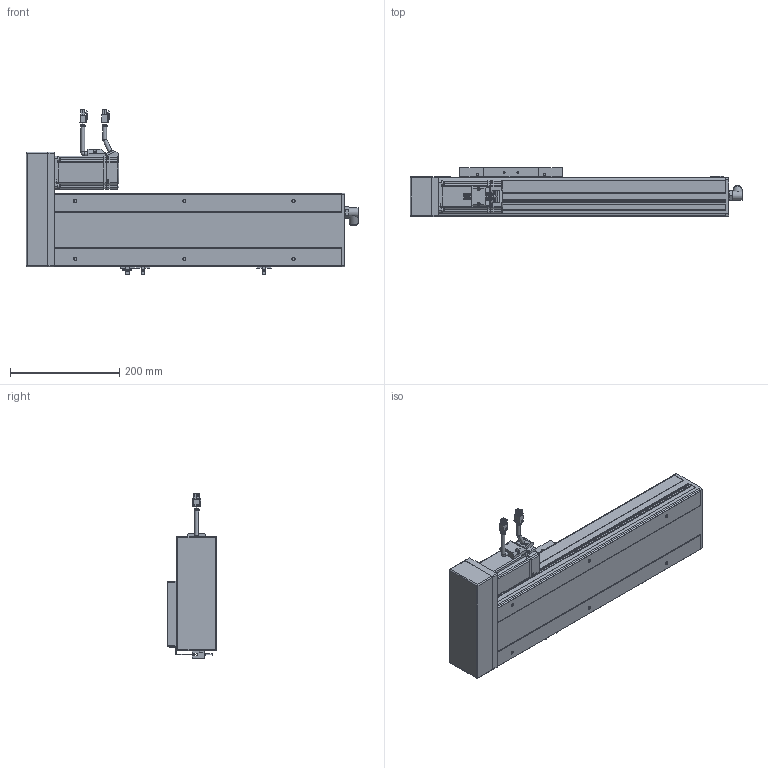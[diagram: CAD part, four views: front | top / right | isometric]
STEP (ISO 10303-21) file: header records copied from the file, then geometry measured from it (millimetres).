
FILE_DESCRIPTION(/* description */ ('STEP AP214'),/* implementation_level */ '2;1');
FILE_NAME(/* name */ 'PSC140-L05-S250-BL-P40-C1-N(0)',/* time_stamp */ '2022-06-13T03:26:19+02:00',/* author */ ('License CC BY-ND 4.0'),/* organization */ ('CADENAS'),/* preprocessor_version */ 'ST-DEVELOPER v18.102',/* originating_system */ 'PARTsolutions',/* authorisation */ ' ');
FILE_SCHEMA (('AUTOMOTIVE_DESIGN {1 0 10303 214 3 1 1}'));
Length unit declared in the file: millimetre
Products named in the file (11): PSC140-L05-S250-BL-P40-C1-N(0); P40-s2; P40-c2; P40-s1; P40-c1; P40-p1; PSC140-BL-body2; PSC140-sensor; PSC140-BL-SLIDER; PSC140-S250-BL-P40-C1_BODY1; PSC140-L05-S250-BL-P40-C1-N(0)_dummy
Assembly tree (12 placements, depth 2):
  PSC140-L05-S250-BL-P40-C1-N(0)
    P40-s2
    P40-c2
    P40-s1
    P40-c1
    P40-p1
    PSC140-BL-body2
    PSC140-sensor  x3
    PSC140-BL-SLIDER
    PSC140-S250-BL-P40-C1_BODY1
    PSC140-L05-S250-BL-P40-C1-N(0)_dummy
Bounding box: 608 x 91 x 300.88 mm (x, y, z)
Volume: 6613269.3 mm3; surface area: 447055.8 mm2
Topology: 11 solids, 11 shells, 1213 faces, 3149 edges, 2085 vertices
Faces by surface type: plane 852, cylinder 308, cone 34, torus 19
Full cylindrical faces by diameter (mm): 1 x8, 2.6 x10, 2.8 x3, 3.3 x8, 4.5 x12, 4.6 x3, 4.917 x10, 5 x4, 5.5 x8, 6 x10, 7 x10, 9 x2, 10 x1, 11 x1, 12 x1, 13.74 x1, 14 x1, 16.4 x2, 16.5 x1, 36 x1, 50 x2
Entity records: 33726 total; most frequent: CARTESIAN_POINT 5899, DIRECTION 5659, ORIENTED_EDGE 5498, EDGE_CURVE 2749, LINE 2097, VECTOR 2097, VERTEX_POINT 1906, AXIS2_PLACEMENT_3D 1781
